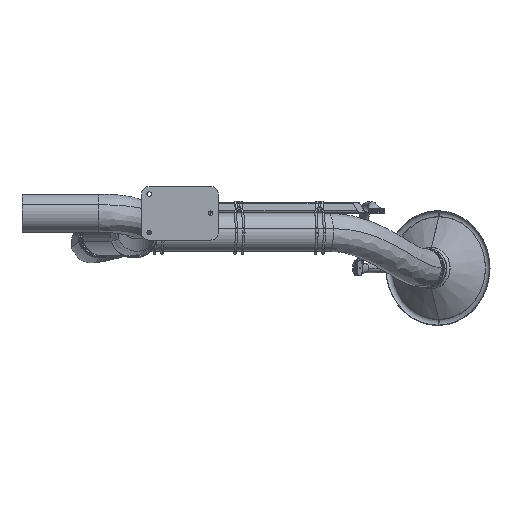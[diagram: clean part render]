
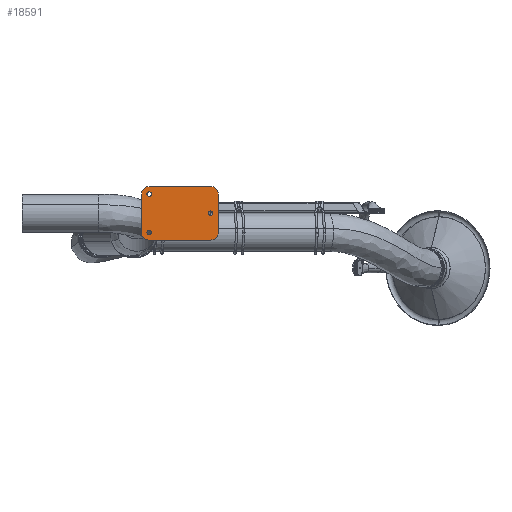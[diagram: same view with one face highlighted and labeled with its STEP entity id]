
A CAD part, left-side view. The second image highlights one B-rep face of the part: STEP entity #18591.
In plain terms, the highlighted planar face has unit normal (-1, 0, 0).
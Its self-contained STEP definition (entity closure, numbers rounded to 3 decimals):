
#17525=CARTESIAN_POINT('',(-400.,50.15,50.));
#17526=DIRECTION('',(-1.,0.,0.));
#17527=DIRECTION('',(0.,0.,1.));
#17528=AXIS2_PLACEMENT_3D('',#17525,#17526,#17527);
#17533=DIRECTION('',(0.,1.,0.));
#17534=VECTOR('',#17533,160.);
#17535=CARTESIAN_POINT('',(-400.,-109.85,70.));
#17536=LINE('',#17535,#17534);
#17540=CARTESIAN_POINT('',(-400.,-109.85,50.));
#17541=DIRECTION('',(-1.,0.,0.));
#17542=DIRECTION('',(0.,-1.,0.));
#17543=AXIS2_PLACEMENT_3D('',#17540,#17541,#17542);
#17548=DIRECTION('',(0.,0.,1.));
#17549=VECTOR('',#17548,100.);
#17550=CARTESIAN_POINT('',(-400.,-129.85,-50.));
#17551=LINE('',#17550,#17549);
#17555=CARTESIAN_POINT('',(-400.,-109.85,-50.));
#17556=DIRECTION('',(-1.,0.,0.));
#17557=DIRECTION('',(0.,0.,-1.));
#17558=AXIS2_PLACEMENT_3D('',#17555,#17556,#17557);
#17563=DIRECTION('',(0.,-1.,0.));
#17564=VECTOR('',#17563,160.);
#17565=CARTESIAN_POINT('',(-400.,50.15,-70.));
#17566=LINE('',#17565,#17564);
#17570=CARTESIAN_POINT('',(-400.,50.15,-50.));
#17571=DIRECTION('',(-1.,0.,0.));
#17572=DIRECTION('',(0.,1.,0.));
#17573=AXIS2_PLACEMENT_3D('',#17570,#17571,#17572);
#17578=DIRECTION('',(0.,0.,-1.));
#17579=VECTOR('',#17578,100.);
#17580=CARTESIAN_POINT('',(-400.,70.15,50.));
#17581=LINE('',#17580,#17579);
#17585=CARTESIAN_POINT('',(-400.,-109.85,0.));
#17586=DIRECTION('',(1.,0.,0.));
#17587=DIRECTION('',(0.,0.,1.));
#17588=AXIS2_PLACEMENT_3D('',#17585,#17586,#17587);
#17593=CARTESIAN_POINT('',(-400.,-109.85,0.));
#17594=DIRECTION('',(1.,0.,0.));
#17595=DIRECTION('',(0.,0.,-1.));
#17596=AXIS2_PLACEMENT_3D('',#17593,#17594,#17595);
#17601=CARTESIAN_POINT('',(-400.,50.15,50.));
#17602=DIRECTION('',(1.,0.,0.));
#17603=DIRECTION('',(0.,0.,1.));
#17604=AXIS2_PLACEMENT_3D('',#17601,#17602,#17603);
#17609=CARTESIAN_POINT('',(-400.,50.15,50.));
#17610=DIRECTION('',(1.,0.,0.));
#17611=DIRECTION('',(0.,0.,-1.));
#17612=AXIS2_PLACEMENT_3D('',#17609,#17610,#17611);
#17617=CARTESIAN_POINT('',(-400.,50.15,-50.));
#17618=DIRECTION('',(1.,0.,0.));
#17619=DIRECTION('',(0.,0.,1.));
#17620=AXIS2_PLACEMENT_3D('',#17617,#17618,#17619);
#17625=CARTESIAN_POINT('',(-400.,50.15,-50.));
#17626=DIRECTION('',(1.,0.,0.));
#17627=DIRECTION('',(0.,0.,-1.));
#17628=AXIS2_PLACEMENT_3D('',#17625,#17626,#17627);
#18010=CARTESIAN_POINT('',(-400.,50.15,-44.));
#18011=CARTESIAN_POINT('',(-400.,50.15,-56.));
#18012=VERTEX_POINT('',#18010);
#18013=VERTEX_POINT('',#18011);
#18014=CARTESIAN_POINT('',(-400.,50.15,56.));
#18015=CARTESIAN_POINT('',(-400.,50.15,44.));
#18016=VERTEX_POINT('',#18014);
#18017=VERTEX_POINT('',#18015);
#18018=CARTESIAN_POINT('',(-400.,-109.85,6.));
#18019=CARTESIAN_POINT('',(-400.,-109.85,-6.));
#18020=VERTEX_POINT('',#18018);
#18021=VERTEX_POINT('',#18019);
#18022=CARTESIAN_POINT('',(-400.,50.15,70.));
#18023=CARTESIAN_POINT('',(-400.,70.15,50.));
#18024=VERTEX_POINT('',#18022);
#18025=VERTEX_POINT('',#18023);
#18026=CARTESIAN_POINT('',(-400.,70.15,-50.));
#18027=VERTEX_POINT('',#18026);
#18028=CARTESIAN_POINT('',(-400.,50.15,-70.));
#18029=VERTEX_POINT('',#18028);
#18030=CARTESIAN_POINT('',(-400.,-109.85,-70.));
#18031=VERTEX_POINT('',#18030);
#18032=CARTESIAN_POINT('',(-400.,-129.85,-50.));
#18033=VERTEX_POINT('',#18032);
#18034=CARTESIAN_POINT('',(-400.,-129.85,50.));
#18035=VERTEX_POINT('',#18034);
#18036=CARTESIAN_POINT('',(-400.,-109.85,70.));
#18037=VERTEX_POINT('',#18036);
#18551=CARTESIAN_POINT('',(-400.,0.,-25.));
#18552=DIRECTION('',(-1.,0.,0.));
#18553=DIRECTION('',(0.,0.,1.));
#18554=AXIS2_PLACEMENT_3D('',#18551,#18552,#18553);
#18555=PLANE('',#18554);
#18556=ORIENTED_EDGE('',*,*,#18541,.F.);
#18558=ORIENTED_EDGE('',*,*,#18557,.F.);
#18560=ORIENTED_EDGE('',*,*,#18559,.F.);
#18562=ORIENTED_EDGE('',*,*,#18561,.F.);
#18564=ORIENTED_EDGE('',*,*,#18563,.F.);
#18566=ORIENTED_EDGE('',*,*,#18565,.F.);
#18568=ORIENTED_EDGE('',*,*,#18567,.F.);
#18570=ORIENTED_EDGE('',*,*,#18569,.F.);
#18571=EDGE_LOOP('',(#18556,#18558,#18560,#18562,#18564,#18566,#18568,#18570));
#18572=FACE_OUTER_BOUND('',#18571,.F.);
#18574=ORIENTED_EDGE('',*,*,#18573,.F.);
#18576=ORIENTED_EDGE('',*,*,#18575,.F.);
#18577=EDGE_LOOP('',(#18574,#18576));
#18578=FACE_BOUND('',#18577,.F.);
#18580=ORIENTED_EDGE('',*,*,#18579,.F.);
#18582=ORIENTED_EDGE('',*,*,#18581,.F.);
#18583=EDGE_LOOP('',(#18580,#18582));
#18584=FACE_BOUND('',#18583,.F.);
#18586=ORIENTED_EDGE('',*,*,#18585,.F.);
#18588=ORIENTED_EDGE('',*,*,#18587,.F.);
#18589=EDGE_LOOP('',(#18586,#18588));
#18590=FACE_BOUND('',#18589,.F.);
#17529=CIRCLE('',#17528,20.);
#17544=CIRCLE('',#17543,20.);
#17559=CIRCLE('',#17558,20.);
#17574=CIRCLE('',#17573,20.);
#17589=CIRCLE('',#17588,6.);
#17597=CIRCLE('',#17596,6.);
#17605=CIRCLE('',#17604,6.);
#17613=CIRCLE('',#17612,6.);
#17621=CIRCLE('',#17620,6.);
#17629=CIRCLE('',#17628,6.);
#18541=EDGE_CURVE('',#18024,#18025,#17529,.T.);
#18557=EDGE_CURVE('',#18037,#18024,#17536,.T.);
#18559=EDGE_CURVE('',#18035,#18037,#17544,.T.);
#18561=EDGE_CURVE('',#18033,#18035,#17551,.T.);
#18563=EDGE_CURVE('',#18031,#18033,#17559,.T.);
#18565=EDGE_CURVE('',#18029,#18031,#17566,.T.);
#18567=EDGE_CURVE('',#18027,#18029,#17574,.T.);
#18569=EDGE_CURVE('',#18025,#18027,#17581,.T.);
#18573=EDGE_CURVE('',#18020,#18021,#17589,.T.);
#18575=EDGE_CURVE('',#18021,#18020,#17597,.T.);
#18579=EDGE_CURVE('',#18016,#18017,#17605,.T.);
#18581=EDGE_CURVE('',#18017,#18016,#17613,.T.);
#18585=EDGE_CURVE('',#18012,#18013,#17621,.T.);
#18587=EDGE_CURVE('',#18013,#18012,#17629,.T.);
#18591=ADVANCED_FACE('',(#18572,#18578,#18584,#18590),#18555,.T.);
